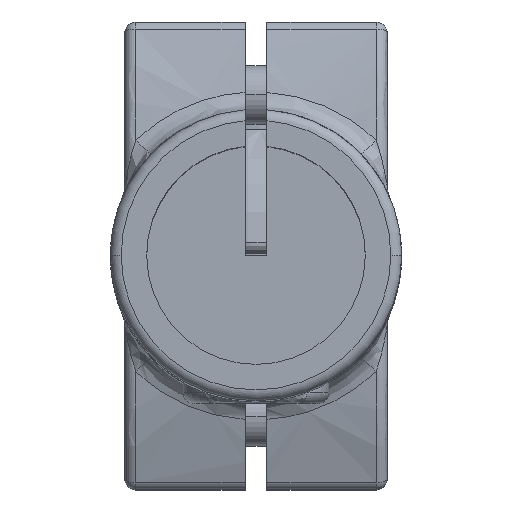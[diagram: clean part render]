
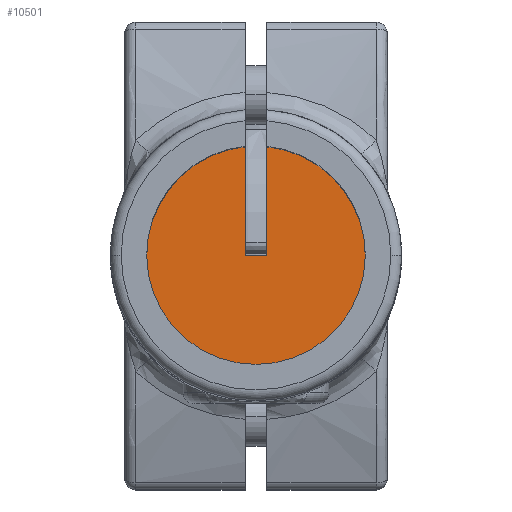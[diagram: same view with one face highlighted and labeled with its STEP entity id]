
A CAD part, top view. The second image highlights one B-rep face of the part: STEP entity #10501.
In plain terms, the highlighted planar face has unit normal (0, 0, 1) as drawn and (0, 0, -1) by its records, which use the part's own axes.
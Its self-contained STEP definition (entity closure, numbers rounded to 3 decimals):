
#163 = VERTEX_POINT ( 'NONE', #6343 ) ;
#639 = EDGE_CURVE ( 'NONE', #163, #6092, #9431, .T. ) ;
#942 = CIRCLE ( 'NONE', #12923, 15. ) ;
#1319 = PLANE ( 'NONE',  #4509 ) ;
#1404 = CARTESIAN_POINT ( 'NONE',  ( 0., 0., 42.5 ) ) ;
#1496 = DIRECTION ( 'NONE',  ( 0., -1., 0. ) ) ;
#1578 = ORIENTED_EDGE ( 'NONE', *, *, #9402, .F. ) ;
#1743 = EDGE_CURVE ( 'NONE', #1776, #3473, #13794, .T. ) ;
#1776 = VERTEX_POINT ( 'NONE', #2652 ) ;
#2521 = AXIS2_PLACEMENT_3D ( 'NONE', #15195, #13617, #3579 ) ;
#2652 = CARTESIAN_POINT ( 'NONE',  ( -1.5, 14.925, 42.5 ) ) ;
#2768 = CARTESIAN_POINT ( 'NONE',  ( 0., 0., 42.5 ) ) ;
#3074 = DIRECTION ( 'NONE',  ( 0., -1., 0. ) ) ;
#3241 = VECTOR ( 'NONE', #1496, 1000. ) ;
#3265 = ORIENTED_EDGE ( 'NONE', *, *, #11724, .T. ) ;
#3473 = VERTEX_POINT ( 'NONE', #13154 ) ;
#3579 = DIRECTION ( 'NONE',  ( -1., 0., 0. ) ) ;
#4215 = DIRECTION ( 'NONE',  ( 0., 0., -1. ) ) ;
#4509 = AXIS2_PLACEMENT_3D ( 'NONE', #1404, #10431, #10253 ) ;
#4528 = ORIENTED_EDGE ( 'NONE', *, *, #1743, .T. ) ;
#4754 = VECTOR ( 'NONE', #3074, 1000. ) ;
#4997 = DIRECTION ( 'NONE',  ( 0., 0., -1. ) ) ;
#5397 = EDGE_CURVE ( 'NONE', #5874, #8874, #11403, .T. ) ;
#5551 = ORIENTED_EDGE ( 'NONE', *, *, #639, .F. ) ;
#5874 = VERTEX_POINT ( 'NONE', #6086 ) ;
#6086 = CARTESIAN_POINT ( 'NONE',  ( 15., 0., 42.5 ) ) ;
#6092 = VERTEX_POINT ( 'NONE', #9682 ) ;
#6273 = CIRCLE ( 'NONE', #2521, 15. ) ;
#6343 = CARTESIAN_POINT ( 'NONE',  ( 1.5, 14.925, 42.5 ) ) ;
#6639 = LINE ( 'NONE', #15424, #15357 ) ;
#7422 = DIRECTION ( 'NONE',  ( -1., 0., 0. ) ) ;
#8874 = VERTEX_POINT ( 'NONE', #14713 ) ;
#8916 = FACE_OUTER_BOUND ( 'NONE', #15553, .T. ) ;
#9402 = EDGE_CURVE ( 'NONE', #6092, #3473, #6639, .T. ) ;
#9431 = LINE ( 'NONE', #13099, #4754 ) ;
#9560 = AXIS2_PLACEMENT_3D ( 'NONE', #2768, #4215, #15743 ) ;
#9603 = ORIENTED_EDGE ( 'NONE', *, *, #5397, .T. ) ;
#9682 = CARTESIAN_POINT ( 'NONE',  ( 1.5, 0., 42.5 ) ) ;
#10253 = DIRECTION ( 'NONE',  ( -1., 0., 0. ) ) ;
#10431 = DIRECTION ( 'NONE',  ( 0., 0., -1. ) ) ;
#10501 = ADVANCED_FACE ( 'NONE', ( #8916 ), #1319, .T. ) ;
#11308 = ORIENTED_EDGE ( 'NONE', *, *, #15647, .T. ) ;
#11403 = CIRCLE ( 'NONE', #9560, 15. ) ;
#11429 = CARTESIAN_POINT ( 'NONE',  ( -1.5, 32., 42.5 ) ) ;
#11724 = EDGE_CURVE ( 'NONE', #163, #5874, #6273, .T. ) ;
#11734 = DIRECTION ( 'NONE',  ( -1., 0., 0. ) ) ;
#12670 = CARTESIAN_POINT ( 'NONE',  ( 0., 0., 42.5 ) ) ;
#12923 = AXIS2_PLACEMENT_3D ( 'NONE', #12670, #4997, #7422 ) ;
#13099 = CARTESIAN_POINT ( 'NONE',  ( 1.5, 32., 42.5 ) ) ;
#13154 = CARTESIAN_POINT ( 'NONE',  ( -1.5, 0., 42.5 ) ) ;
#13617 = DIRECTION ( 'NONE',  ( 0., 0., -1. ) ) ;
#13794 = LINE ( 'NONE', #11429, #3241 ) ;
#14713 = CARTESIAN_POINT ( 'NONE',  ( -15., 0., 42.5 ) ) ;
#15195 = CARTESIAN_POINT ( 'NONE',  ( 0., 0., 42.5 ) ) ;
#15357 = VECTOR ( 'NONE', #11734, 1000. ) ;
#15424 = CARTESIAN_POINT ( 'NONE',  ( -1.5, 0., 42.5 ) ) ;
#15553 = EDGE_LOOP ( 'NONE', ( #3265, #9603, #11308, #4528, #1578, #5551 ) ) ;
#15647 = EDGE_CURVE ( 'NONE', #8874, #1776, #942, .T. ) ;
#15743 = DIRECTION ( 'NONE',  ( -1., 0., 0. ) ) ;
